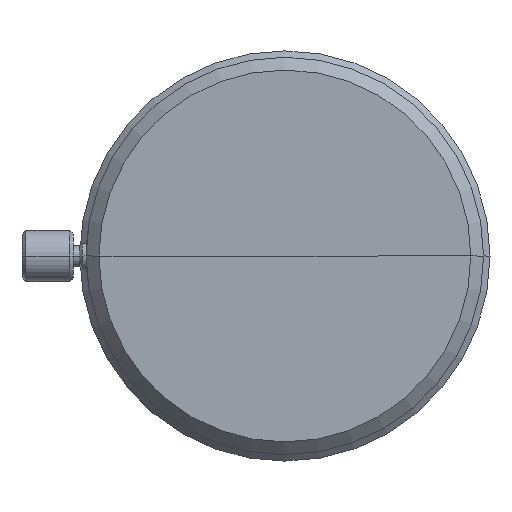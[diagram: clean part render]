
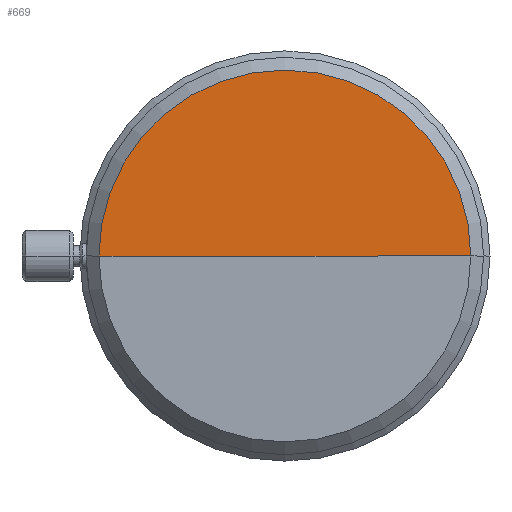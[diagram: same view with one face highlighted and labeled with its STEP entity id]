
A CAD part, left-side view. The second image highlights one B-rep face of the part: STEP entity #669.
In plain terms, the highlighted conical face has half-angle 90 degrees and reference radius 14.5 mm.
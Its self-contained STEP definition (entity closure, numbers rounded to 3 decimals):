
#28 = CARTESIAN_POINT ( 'NONE',  ( 0., 14.5, 0. ) ) ;
#84 = VERTEX_POINT ( 'NONE', #1036 ) ;
#111 = VECTOR ( 'NONE', #942, 1000. ) ;
#202 = ORIENTED_EDGE ( 'NONE', *, *, #1447, .T. ) ;
#276 = VERTEX_POINT ( 'NONE', #1223 ) ;
#295 = AXIS2_PLACEMENT_3D ( 'NONE', #1880, #1018, #338 ) ;
#338 = DIRECTION ( 'NONE',  ( 0., 1., 0. ) ) ;
#342 = ORIENTED_EDGE ( 'NONE', *, *, #1725, .F. ) ;
#356 = DIRECTION ( 'NONE',  ( -1., 0., 0. ) ) ;
#380 = AXIS2_PLACEMENT_3D ( 'NONE', #1389, #356, #1566 ) ;
#404 = EDGE_CURVE ( 'NONE', #276, #1907, #1946, .T. ) ;
#435 = ORIENTED_EDGE ( 'NONE', *, *, #404, .T. ) ;
#470 = CONICAL_SURFACE ( 'NONE', #295, 14.5, 1.571 ) ;
#518 = FACE_OUTER_BOUND ( 'NONE', #970, .T. ) ;
#669 = ADVANCED_FACE ( 'NONE', ( #518 ), #470, .T. ) ;
#840 = CIRCLE ( 'NONE', #380, 14.5 ) ;
#942 = DIRECTION ( 'NONE',  ( 0., -1., 0. ) ) ;
#970 = EDGE_LOOP ( 'NONE', ( #342, #435, #202 ) ) ;
#1018 = DIRECTION ( 'NONE',  ( 1., 0., 0. ) ) ;
#1036 = CARTESIAN_POINT ( 'NONE',  ( 0., 14.5, 0. ) ) ;
#1223 = CARTESIAN_POINT ( 'NONE',  ( 0., 0., 0. ) ) ;
#1286 = CARTESIAN_POINT ( 'NONE',  ( 0., -14.5, 0. ) ) ;
#1298 = CARTESIAN_POINT ( 'NONE',  ( 0., -14.5, 0. ) ) ;
#1389 = CARTESIAN_POINT ( 'NONE',  ( 0., 0., 0. ) ) ;
#1447 = EDGE_CURVE ( 'NONE', #1907, #84, #840, .T. ) ;
#1560 = LINE ( 'NONE', #28, #2017 ) ;
#1566 = DIRECTION ( 'NONE',  ( 0., -1., 0. ) ) ;
#1597 = DIRECTION ( 'NONE',  ( 0., 1., 0. ) ) ;
#1725 = EDGE_CURVE ( 'NONE', #276, #84, #1560, .T. ) ;
#1880 = CARTESIAN_POINT ( 'NONE',  ( 0., 0., 0. ) ) ;
#1907 = VERTEX_POINT ( 'NONE', #1286 ) ;
#1946 = LINE ( 'NONE', #1298, #111 ) ;
#2017 = VECTOR ( 'NONE', #1597, 1000. ) ;
